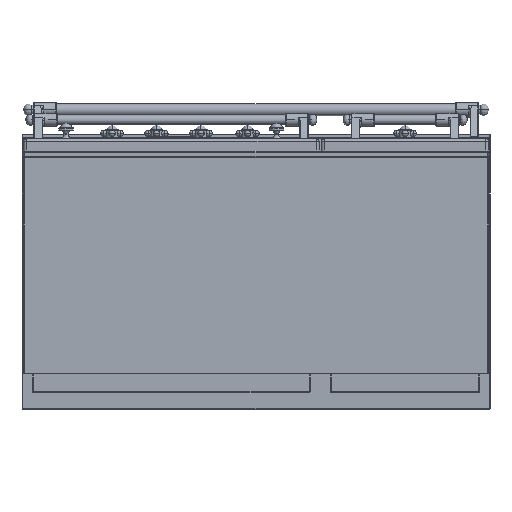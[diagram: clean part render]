
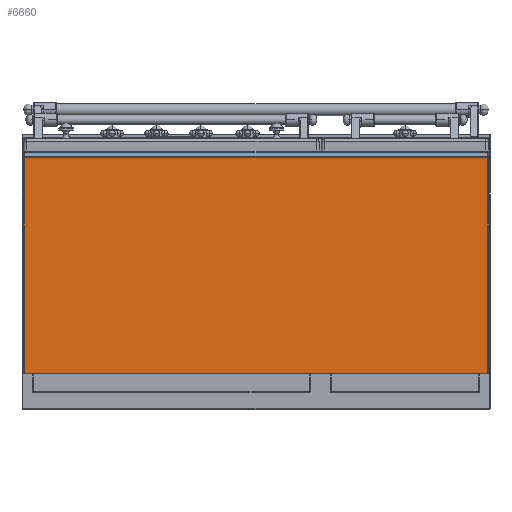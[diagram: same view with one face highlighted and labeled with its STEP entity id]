
A CAD part, front view. The second image highlights one B-rep face of the part: STEP entity #6660.
In plain terms, the highlighted planar face has unit normal (0, -1, 0).
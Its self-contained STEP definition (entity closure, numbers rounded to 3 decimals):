
#6303=DIRECTION('',(0.,0.,-1.));
#6304=VECTOR('',#6303,508.);
#6305=CARTESIAN_POINT('',(547.,0.,254.));
#6306=LINE('',#6305,#6304);
#6307=DIRECTION('',(-1.,0.,0.));
#6308=VECTOR('',#6307,1094.);
#6309=CARTESIAN_POINT('',(547.,0.,-254.));
#6310=LINE('',#6309,#6308);
#6311=DIRECTION('',(0.,0.,1.));
#6312=VECTOR('',#6311,508.);
#6313=CARTESIAN_POINT('',(-547.,0.,-254.));
#6314=LINE('',#6313,#6312);
#6315=DIRECTION('',(-1.,0.,0.));
#6316=VECTOR('',#6315,1094.);
#6317=CARTESIAN_POINT('',(547.,0.,254.));
#6318=LINE('',#6317,#6316);
#6455=CARTESIAN_POINT('',(547.,0.,254.));
#6456=CARTESIAN_POINT('',(547.,0.,-254.));
#6457=VERTEX_POINT('',#6455);
#6458=VERTEX_POINT('',#6456);
#6461=CARTESIAN_POINT('',(-547.,0.,254.));
#6462=VERTEX_POINT('',#6461);
#6469=CARTESIAN_POINT('',(-547.,0.,-254.));
#6470=VERTEX_POINT('',#6469);
#6646=CARTESIAN_POINT('',(-549.,0.,256.));
#6647=DIRECTION('',(0.,-1.,0.));
#6648=DIRECTION('',(0.,0.,-1.));
#6649=AXIS2_PLACEMENT_3D('',#6646,#6647,#6648);
#6650=PLANE('',#6649);
#6651=ORIENTED_EDGE('',*,*,#6636,.T.);
#6653=ORIENTED_EDGE('',*,*,#6652,.T.);
#6655=ORIENTED_EDGE('',*,*,#6654,.T.);
#6657=ORIENTED_EDGE('',*,*,#6656,.F.);
#6658=EDGE_LOOP('',(#6651,#6653,#6655,#6657));
#6659=FACE_OUTER_BOUND('',#6658,.F.);
#6636=EDGE_CURVE('',#6457,#6458,#6306,.T.);
#6652=EDGE_CURVE('',#6458,#6470,#6310,.T.);
#6654=EDGE_CURVE('',#6470,#6462,#6314,.T.);
#6656=EDGE_CURVE('',#6457,#6462,#6318,.T.);
#6660=ADVANCED_FACE('',(#6659),#6650,.T.);
